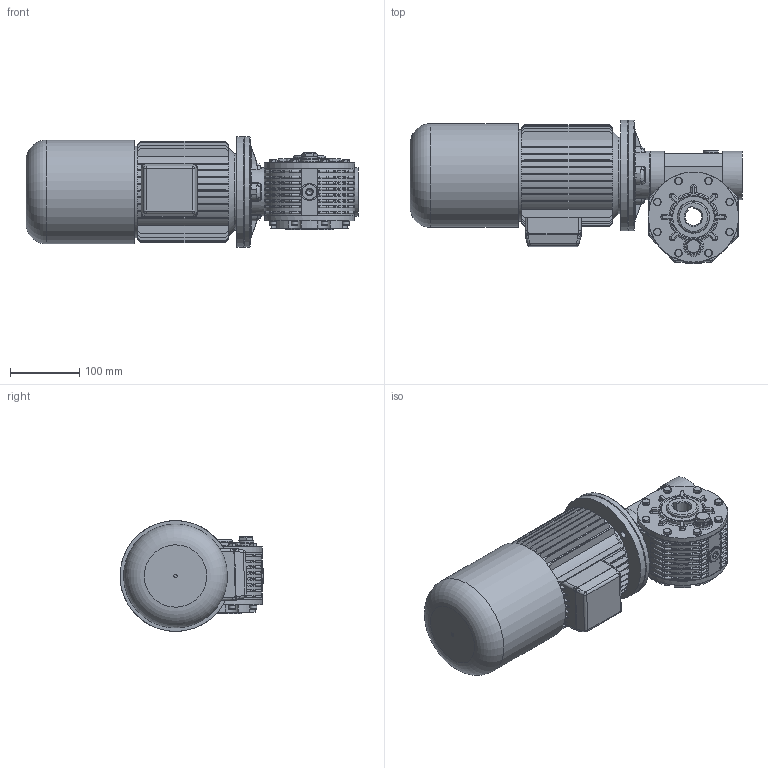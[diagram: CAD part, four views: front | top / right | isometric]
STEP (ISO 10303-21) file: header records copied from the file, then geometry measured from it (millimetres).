
FILE_DESCRIPTION((''),'2;1');
FILE_NAME('Y:\Archivi Inventor\Prog_01\GRAND_20\figuirini\mrv20_sito\71_autofrenante\MRV---20---FP2----71----B5-F3D.stp','2013-02-08T16:10:40',('tech3'),(''),'Autodesk Inventor 2013','Autodesk Inventor 2013','');
FILE_SCHEMA(('AUTOMOTIVE_DESIGN { 1 0 10303 214 1 1 1 1 }'));
Length unit declared in the file: millimetre
Products named in the file (18): fig_mrv20_71_b5; mrv20; 0102001; Coperchietto_47x7; Guarnizione 3_8 GAS; Tappo 3_8 GAS_esagn_incsst; mozzo_corona_fig; PARAOLIO 45x60x8; 0102029; 0102002-A1_fig; ISO 4762 M6 x 16; DIN EN 24017 M6 x 12; Tappo3_8 GAS; 0102004; 0102028; DIN EN ISO 4762 M6 x 20; 0102006; motori B5 brake 71
Assembly tree (40 placements, depth 3):
  fig_mrv20_71_b5
    mrv20
      0102001
      Coperchietto_47x7
      Guarnizione 3_8 GAS  x3
      Tappo 3_8 GAS_esagn_incsst  x2
      mozzo_corona_fig
      PARAOLIO 45x60x8  x2
      0102029  x2
      0102002-A1_fig
      ISO 4762 M6 x 16  x8
      DIN EN 24017 M6 x 12  x9
      Tappo3_8 GAS
      0102004
      0102028
      DIN EN ISO 4762 M6 x 20  x4
    0102006
    motori B5 brake 71
Bounding box: 479 x 207.46 x 159.92 mm (x, y, z)
Volume: 4342781.7 mm3; surface area: 722148.9 mm2
Topology: 40 solids, 52 shells, 2063 faces, 4961 edges, 2984 vertices
Faces by surface type: plane 889, cylinder 639, bspline 214, torus 175, cone 142, sphere 4
Full cylindrical faces by diameter (mm): 2 x2, 4.917 x20, 5 x1, 6 x21, 6.5 x28, 6.647 x4, 6.75 x12, 8 x2, 8.88 x9, 9.5 x4, 10 x12, 11 x8, 13.046 x1, 14 x1, 14.95 x3, 16.3 x3, 16.5 x2, 22 x6, 25 x2, 40 x1, 41.36 x1, 44.4 x2, 45 x4, 47 x4, 49.5 x1, 50.605 x2, 55.5 x2, 60 x5, 63 x1, 69.5 x1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
Entity records: 60052 total; most frequent: CARTESIAN_POINT 20643, DIRECTION 8230, ORIENTED_EDGE 7756, EDGE_CURVE 3878, AXIS2_PLACEMENT_3D 3313, VERTEX_POINT 2474, EDGE_LOOP 2058, CIRCLE 1737
